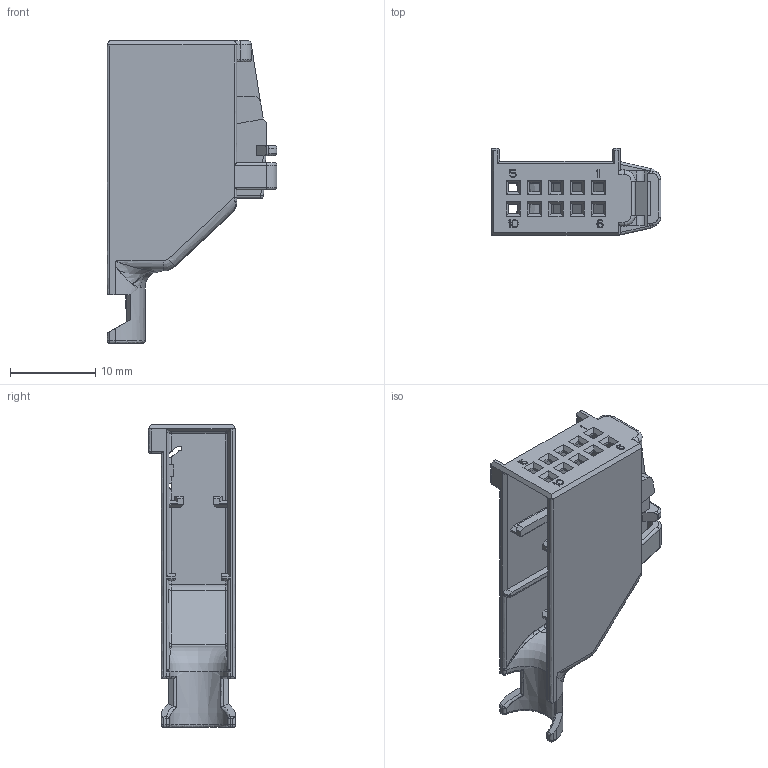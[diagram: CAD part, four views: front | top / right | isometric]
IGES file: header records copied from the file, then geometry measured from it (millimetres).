
Start section:  PTC IGES file: c-1-1534170-2-b-3d.igs
Global section: file name: c-1-1534170-2-b-3d.igs; native system: Creo Parametric by PTC Inc.; preprocessor: 2015200; author: workeradm; organization: Unknown; units: millimetre
Bounding box: 19.9 x 10.2 x 35.5 mm (x, y, z)
Surface area: 2839.6 mm2 (no closed solid volume)
Topology: 0 solids, 0 shells, 534 faces, 2850 edges, 2850 vertices
Faces by surface type: bspline 384, revolution 150
